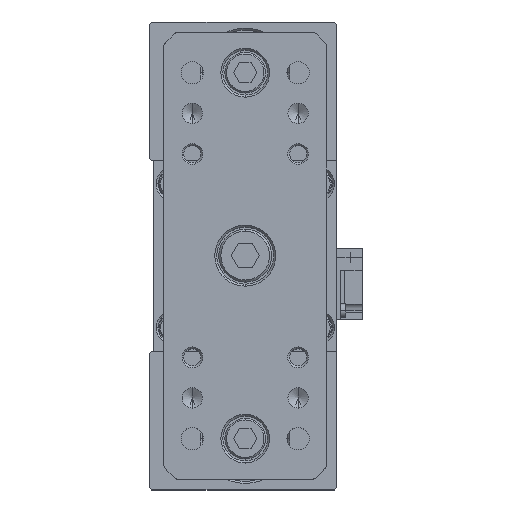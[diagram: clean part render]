
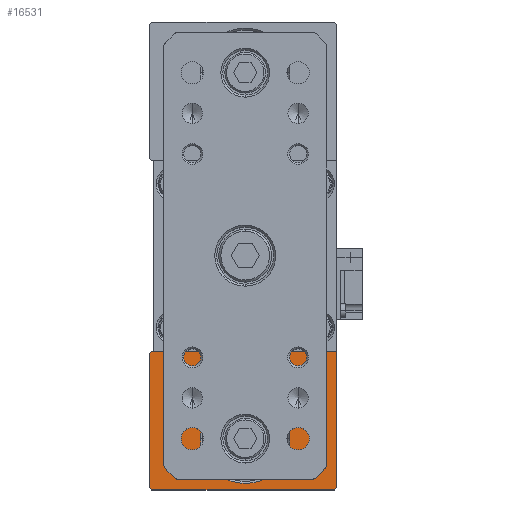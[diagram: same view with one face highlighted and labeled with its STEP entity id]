
A CAD part, top view. The second image highlights one B-rep face of the part: STEP entity #16531.
In plain terms, the highlighted planar face has unit normal (0, 0, 1).
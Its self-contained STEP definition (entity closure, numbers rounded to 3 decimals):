
#319 = EDGE_CURVE ( 'NONE', #16504, #18154, #7353, .T. ) ;
#1647 = CARTESIAN_POINT ( 'NONE',  ( -23.5, -57., 311. ) ) ;
#2772 = CARTESIAN_POINT ( 'NONE',  ( 22.5, -57., 311. ) ) ;
#2833 = VECTOR ( 'NONE', #16082, 1000. ) ;
#3057 = EDGE_CURVE ( 'NONE', #8336, #12172, #23780, .T. ) ;
#3465 = DIRECTION ( 'NONE',  ( 0., 0., -1. ) ) ;
#3893 = LINE ( 'NONE', #24432, #28585 ) ;
#4505 = AXIS2_PLACEMENT_3D ( 'NONE', #10842, #3465, #20755 ) ;
#4568 = LINE ( 'NONE', #16512, #23483 ) ;
#5488 = EDGE_CURVE ( 'NONE', #12172, #27379, #3893, .T. ) ;
#5826 = ORIENTED_EDGE ( 'NONE', *, *, #15544, .T. ) ;
#6109 = CARTESIAN_POINT ( 'NONE',  ( -23., -57.5, 311. ) ) ;
#6536 = CIRCLE ( 'NONE', #7884, 11. ) ;
#6838 = VERTEX_POINT ( 'NONE', #13648 ) ;
#7008 = ORIENTED_EDGE ( 'NONE', *, *, #17081, .T. ) ;
#7353 = LINE ( 'NONE', #24756, #19740 ) ;
#7884 = AXIS2_PLACEMENT_3D ( 'NONE', #10398, #27611, #12865 ) ;
#7911 = EDGE_CURVE ( 'NONE', #16504, #23267, #4568, .T. ) ;
#8331 = PLANE ( 'NONE',  #4505 ) ;
#8336 = VERTEX_POINT ( 'NONE', #9020 ) ;
#8691 = EDGE_LOOP ( 'NONE', ( #21674, #23723, #26339, #5826, #25286, #21940, #7008 ) ) ;
#9020 = CARTESIAN_POINT ( 'NONE',  ( 22.5, -23.5, 311. ) ) ;
#9045 = DIRECTION ( 'NONE',  ( -1., 0., 0. ) ) ;
#9410 = LINE ( 'NONE', #6109, #2833 ) ;
#10000 = CARTESIAN_POINT ( 'NONE',  ( -23., -57.5, 311. ) ) ;
#10056 = CARTESIAN_POINT ( 'NONE',  ( 0., -45., 311. ) ) ;
#10398 = CARTESIAN_POINT ( 'NONE',  ( 0., -45., 311. ) ) ;
#10509 = CARTESIAN_POINT ( 'NONE',  ( -23., -23.5, 311. ) ) ;
#10842 = CARTESIAN_POINT ( 'NONE',  ( 22.5, -57.5, 311. ) ) ;
#12134 = EDGE_CURVE ( 'NONE', #31093, #6838, #6536, .T. ) ;
#12172 = VERTEX_POINT ( 'NONE', #10509 ) ;
#12495 = FACE_BOUND ( 'NONE', #17535, .T. ) ;
#12533 = DIRECTION ( 'NONE',  ( -1., 0., 0. ) ) ;
#12865 = DIRECTION ( 'NONE',  ( -1., 0., 0. ) ) ;
#13648 = CARTESIAN_POINT ( 'NONE',  ( -11., -45., 311. ) ) ;
#15065 = DIRECTION ( 'NONE',  ( 0.707, 0.707, 0. ) ) ;
#15159 = VECTOR ( 'NONE', #23096, 1000. ) ;
#15326 = EDGE_CURVE ( 'NONE', #6838, #31093, #30272, .T. ) ;
#15544 = EDGE_CURVE ( 'NONE', #18448, #23267, #9410, .T. ) ;
#15920 = LINE ( 'NONE', #20596, #15159 ) ;
#16082 = DIRECTION ( 'NONE',  ( 0.707, -0.707, 0. ) ) ;
#16480 = AXIS2_PLACEMENT_3D ( 'NONE', #10056, #27301, #12533 ) ;
#16504 = VERTEX_POINT ( 'NONE', #28069 ) ;
#16512 = CARTESIAN_POINT ( 'NONE',  ( 22.5, -57.5, 311. ) ) ;
#16531 = ADVANCED_FACE ( 'NONE', ( #12495, #19056 ), #8331, .F. ) ;
#17081 = EDGE_CURVE ( 'NONE', #18154, #8336, #15920, .T. ) ;
#17535 = EDGE_LOOP ( 'NONE', ( #18676, #23773 ) ) ;
#18154 = VERTEX_POINT ( 'NONE', #2772 ) ;
#18448 = VERTEX_POINT ( 'NONE', #1647 ) ;
#18517 = CARTESIAN_POINT ( 'NONE',  ( -23.5, -57.5, 311. ) ) ;
#18676 = ORIENTED_EDGE ( 'NONE', *, *, #12134, .T. ) ;
#19056 = FACE_OUTER_BOUND ( 'NONE', #8691, .T. ) ;
#19277 = LINE ( 'NONE', #18517, #25048 ) ;
#19740 = VECTOR ( 'NONE', #15065, 1000. ) ;
#20596 = CARTESIAN_POINT ( 'NONE',  ( 22.5, -57.5, 311. ) ) ;
#20755 = DIRECTION ( 'NONE',  ( -1., 0., 0. ) ) ;
#21495 = EDGE_CURVE ( 'NONE', #18448, #27379, #19277, .T. ) ;
#21674 = ORIENTED_EDGE ( 'NONE', *, *, #3057, .T. ) ;
#21691 = DIRECTION ( 'NONE',  ( -1., 0., 0. ) ) ;
#21940 = ORIENTED_EDGE ( 'NONE', *, *, #319, .T. ) ;
#23096 = DIRECTION ( 'NONE',  ( 0., 1., 0. ) ) ;
#23267 = VERTEX_POINT ( 'NONE', #10000 ) ;
#23483 = VECTOR ( 'NONE', #9045, 1000. ) ;
#23723 = ORIENTED_EDGE ( 'NONE', *, *, #5488, .T. ) ;
#23773 = ORIENTED_EDGE ( 'NONE', *, *, #15326, .T. ) ;
#23780 = LINE ( 'NONE', #24292, #27250 ) ;
#24292 = CARTESIAN_POINT ( 'NONE',  ( 22.5, -23.5, 311. ) ) ;
#24432 = CARTESIAN_POINT ( 'NONE',  ( -23.5, -24., 311. ) ) ;
#24756 = CARTESIAN_POINT ( 'NONE',  ( 22., -57.5, 311. ) ) ;
#25048 = VECTOR ( 'NONE', #28430, 1000. ) ;
#25286 = ORIENTED_EDGE ( 'NONE', *, *, #7911, .F. ) ;
#25725 = CARTESIAN_POINT ( 'NONE',  ( -23.5, -24., 311. ) ) ;
#26339 = ORIENTED_EDGE ( 'NONE', *, *, #21495, .F. ) ;
#26340 = CARTESIAN_POINT ( 'NONE',  ( 11., -45., 311. ) ) ;
#27250 = VECTOR ( 'NONE', #21691, 1000. ) ;
#27301 = DIRECTION ( 'NONE',  ( 0., 0., -1. ) ) ;
#27379 = VERTEX_POINT ( 'NONE', #25725 ) ;
#27611 = DIRECTION ( 'NONE',  ( 0., 0., -1. ) ) ;
#28069 = CARTESIAN_POINT ( 'NONE',  ( 22., -57.5, 311. ) ) ;
#28430 = DIRECTION ( 'NONE',  ( 0., 1., 0. ) ) ;
#28585 = VECTOR ( 'NONE', #31908, 1000. ) ;
#30272 = CIRCLE ( 'NONE', #16480, 11. ) ;
#31093 = VERTEX_POINT ( 'NONE', #26340 ) ;
#31908 = DIRECTION ( 'NONE',  ( -0.707, -0.707, 0. ) ) ;
